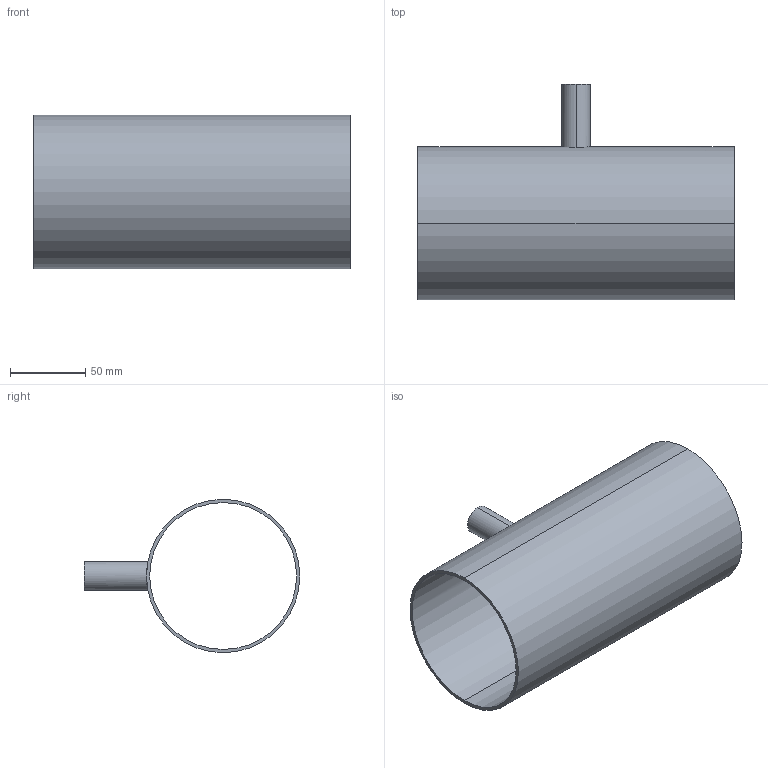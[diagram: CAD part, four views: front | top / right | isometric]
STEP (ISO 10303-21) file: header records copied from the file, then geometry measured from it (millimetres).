
FILE_DESCRIPTION (( 'STEP AP214' ), '1' );
FILE_NAME ('TE7RWWW6L4.0x.75-...STEP', '2016-05-24T04:30:38', ( 'eran' ), ( '' ), 'SwSTEP 2.0', 'SolidWorks 2016', '' );
FILE_SCHEMA (( 'AUTOMOTIVE_DESIGN' ));
Length unit declared in the file: millimetre
Products named in the file (1): TE7RWWW6L4.0x.75-..
Bounding box: 209.6 x 142.9 x 101.6 mm (x, y, z)
Volume: 141577 mm3; surface area: 136613.7 mm2
Topology: 1 solids, 1 shells, 11 faces, 24 edges, 16 vertices
Faces by surface type: cylinder 8, plane 3
Entity records: 526 total; most frequent: CARTESIAN_POINT 234, DIRECTION 56, ORIENTED_EDGE 48, EDGE_CURVE 24, AXIS2_PLACEMENT_3D 24, EDGE_LOOP 16, VERTEX_POINT 16, CIRCLE 12
